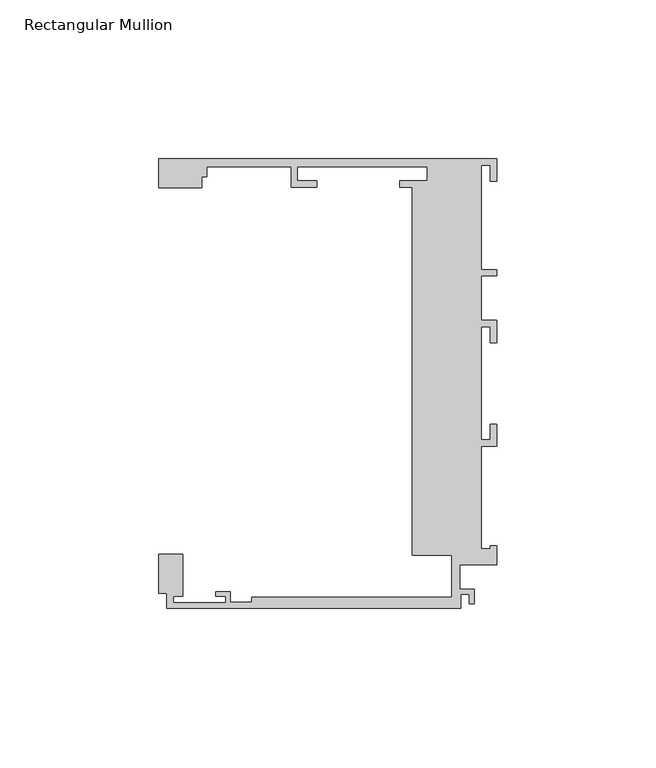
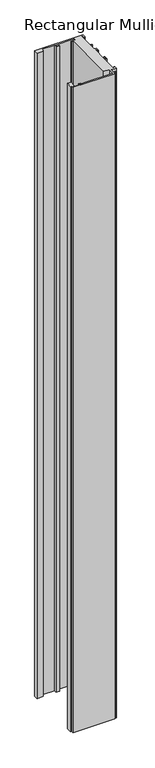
"""IFC4 building model written with IfcOpenShell, lengths in millimetres: member geometry, Rectangular Mullion : Danpal_K12_End-Mullion_B2."""

from ifc_helpers import new_model, si_unit, frame, origin, place, context, project, spatial, polyline, outline, extrude, source, transform, mapped, element, save


def rectangular_mullion_3d357507(model_context):
    return source(origin(), model_context, "Body", "SweptSolid", [
        extrude(outline(polyline([(-26.6209612, 1.9446289), (-26.6209612, 117.8676658), (-30.6, 117.8676658), (-30.6, 119.8676658), (-21.835, 119.8676658), (-21.835, 124.2676658), (-62.7350275, 124.2676658), (-62.7350275, 119.8676658), (-56.7350275, 119.8676658), (-56.7350275, 117.8676658), (-64.7350275, 117.8676658), (-64.7350275, 124.2676658), (-91.2900275, 124.2676658), (-91.2900275, 121.0676175), (-92.8228167, 121.0676175), (-92.8228167, 117.6986749), (-106.4117426, 117.6986749), (-106.4117426, 126.7676657), (0.0, 126.7676657), (0.0, 119.7676657), (-2.0, 119.7676657), (-2.0, 124.7676657), (-4.8, 124.7676657), (-4.8, 91.8676485), (0.0, 91.8676485), (0.0, 89.8676485), (-4.8, 89.8676485), (-4.8, 75.867683), (0.0, 75.867683), (0.0, 68.8676657), (-2.0, 68.8676657), (-2.0, 73.8676657), (-4.8, 73.8676657), (-4.8, 38.2443486), (-2.0, 38.2443486), (-2.0, 43.2443486), (0.0, 43.2443486), (0.0, 36.2443486), (-4.8, 36.2443486), (-4.8, 3.9448486), (-2.0, 3.9448486), (-2.0, 4.9448486), (0.0, 4.9448486), (0.0, -1.0551514), (-11.6055875, -1.0551514), (-11.6055875, -8.8006425), (-7.1518595, -8.8006425), (-7.1518595, -13.3051514), (-8.6518595, -13.3051514), (-8.6518595, -10.3006425), (-11.4019537, -10.3006425), (-11.4019537, -14.8051514), (-103.8999976, -14.8051514), (-103.8999976, -10.065304), (-106.4117426, -10.065304), (-106.4117426, 2.316674), (-98.8999976, 2.316674), (-98.8999976, -11.0051513), (-101.8999976, -11.0051513), (-101.8999976, -13.0051512), (-85.3999976, -13.0051512), (-85.3999976, -11.0051513), (-88.3999976, -11.0051513), (-88.3999976, -9.5051512), (-83.8999976, -9.5051512), (-83.8999976, -12.8051513), (-77.1531178, -12.8051513), (-77.1531178, -11.3051512), (-14.1055875, -11.3051512), (-14.1055875, 1.9446289), (-26.6209612, 1.9446289)])), frame((0.0, 0.0, -1500.0), z_axis=(0.0, 0.0, 1.0), x_axis=(1.0, 0.0, 0.0)), (0.0, 0.0, 1.0), 1500.0),
    ])


if __name__ == "__main__":
    model = new_model("IFC4")
    model_context = context("Model", 3, world=origin())
    ifc_project = project(units=[si_unit("LENGTHUNIT", "METRE", prefix="MILLI")], contexts=[model_context])
    site = spatial("IfcSite", under=ifc_project)
    building = spatial("IfcBuilding", under=site)
    placement = place(None, origin())
    rectangular_mullion_shape = rectangular_mullion_3d357507(model_context)
    element("IfcMember", 1, ObjectType="Rectangular Mullion : Danpal_K12_End-Mullion_B2", at=placement, inside=building, context=model_context, shape_type="MappedRepresentation", body=[
        mapped(rectangular_mullion_shape, transform((0.0, 0.0, 0.0), x_axis=(1.0, 0.0, 0.0), y_axis=(0.0, 1.0, 0.0), z_axis=(0.0, 0.0, 1.0))),
    ])
    save(model, "model.ifc")
